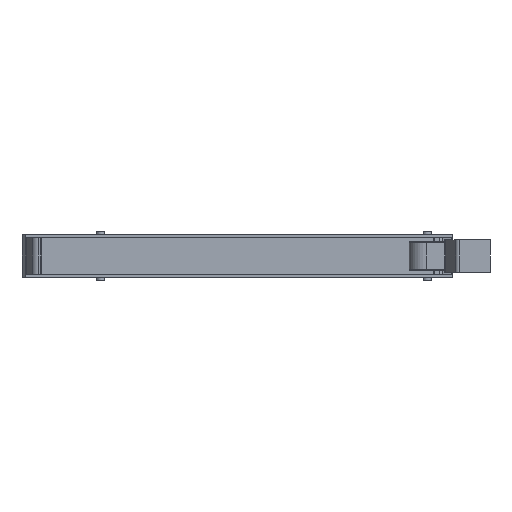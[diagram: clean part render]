
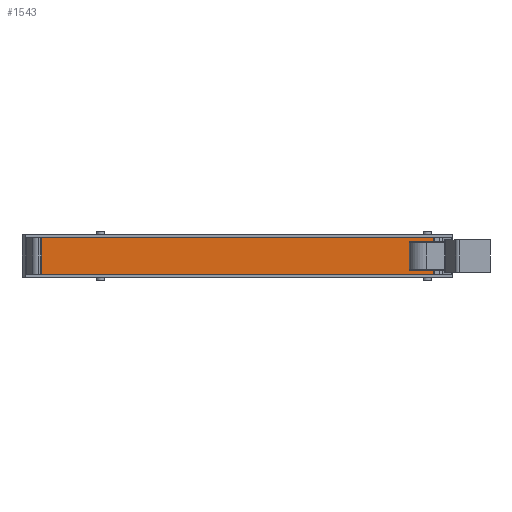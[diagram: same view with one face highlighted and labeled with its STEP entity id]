
A CAD part, front view. The second image highlights one B-rep face of the part: STEP entity #1543.
In plain terms, the highlighted planar face has unit normal (0, -1, 0).
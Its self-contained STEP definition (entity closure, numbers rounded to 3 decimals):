
#69 = ORIENTED_EDGE ( 'NONE', *, *, #2847, .F. ) ;
#144 = DIRECTION ( 'NONE',  ( -1., 0., 0. ) ) ;
#246 = DIRECTION ( 'NONE',  ( 0., 0., 1. ) ) ;
#248 = PLANE ( 'NONE',  #996 ) ;
#335 = VECTOR ( 'NONE', #1625, 1000. ) ;
#628 = VERTEX_POINT ( 'NONE', #4047 ) ;
#750 = CARTESIAN_POINT ( 'NONE',  ( -113.5, -59.5, -249.682 ) ) ;
#905 = LINE ( 'NONE', #750, #4569 ) ;
#996 = AXIS2_PLACEMENT_3D ( 'NONE', #1000, #2109, #4661 ) ;
#1000 = CARTESIAN_POINT ( 'NONE',  ( -113.5, -59.5, -249.682 ) ) ;
#1007 = ORIENTED_EDGE ( 'NONE', *, *, #2690, .T. ) ;
#1076 = FACE_OUTER_BOUND ( 'NONE', #2554, .T. ) ;
#1095 = LINE ( 'NONE', #4641, #2922 ) ;
#1126 = DIRECTION ( 'NONE',  ( 0., 0., 1. ) ) ;
#1280 = LINE ( 'NONE', #2370, #2138 ) ;
#1450 = VERTEX_POINT ( 'NONE', #3769 ) ;
#1543 = ADVANCED_FACE ( 'NONE', ( #1076 ), #248, .T. ) ;
#1609 = CARTESIAN_POINT ( 'NONE',  ( -113.5, -59.5, 23.3 ) ) ;
#1625 = DIRECTION ( 'NONE',  ( 1., 0., 0. ) ) ;
#1929 = VERTEX_POINT ( 'NONE', #2014 ) ;
#2014 = CARTESIAN_POINT ( 'NONE',  ( 117., -59.5, 23.3 ) ) ;
#2024 = VERTEX_POINT ( 'NONE', #2816 ) ;
#2109 = DIRECTION ( 'NONE',  ( 0., -1., 0. ) ) ;
#2138 = VECTOR ( 'NONE', #144, 1000. ) ;
#2370 = CARTESIAN_POINT ( 'NONE',  ( -113.5, -59.5, 1.7 ) ) ;
#2554 = EDGE_LOOP ( 'NONE', ( #2860, #69, #1007, #3556 ) ) ;
#2690 = EDGE_CURVE ( 'NONE', #1450, #1929, #1095, .T. ) ;
#2816 = CARTESIAN_POINT ( 'NONE',  ( -113.5, -59.5, 1.7 ) ) ;
#2847 = EDGE_CURVE ( 'NONE', #1450, #2024, #1280, .T. ) ;
#2860 = ORIENTED_EDGE ( 'NONE', *, *, #3019, .F. ) ;
#2922 = VECTOR ( 'NONE', #246, 1000. ) ;
#3019 = EDGE_CURVE ( 'NONE', #2024, #628, #905, .T. ) ;
#3281 = LINE ( 'NONE', #1609, #335 ) ;
#3556 = ORIENTED_EDGE ( 'NONE', *, *, #3964, .F. ) ;
#3769 = CARTESIAN_POINT ( 'NONE',  ( 117., -59.5, 1.7 ) ) ;
#3964 = EDGE_CURVE ( 'NONE', #628, #1929, #3281, .T. ) ;
#4047 = CARTESIAN_POINT ( 'NONE',  ( -113.5, -59.5, 23.3 ) ) ;
#4569 = VECTOR ( 'NONE', #1126, 1000. ) ;
#4641 = CARTESIAN_POINT ( 'NONE',  ( 117., -59.5, -249.682 ) ) ;
#4661 = DIRECTION ( 'NONE',  ( 0., 0., -1. ) ) ;
